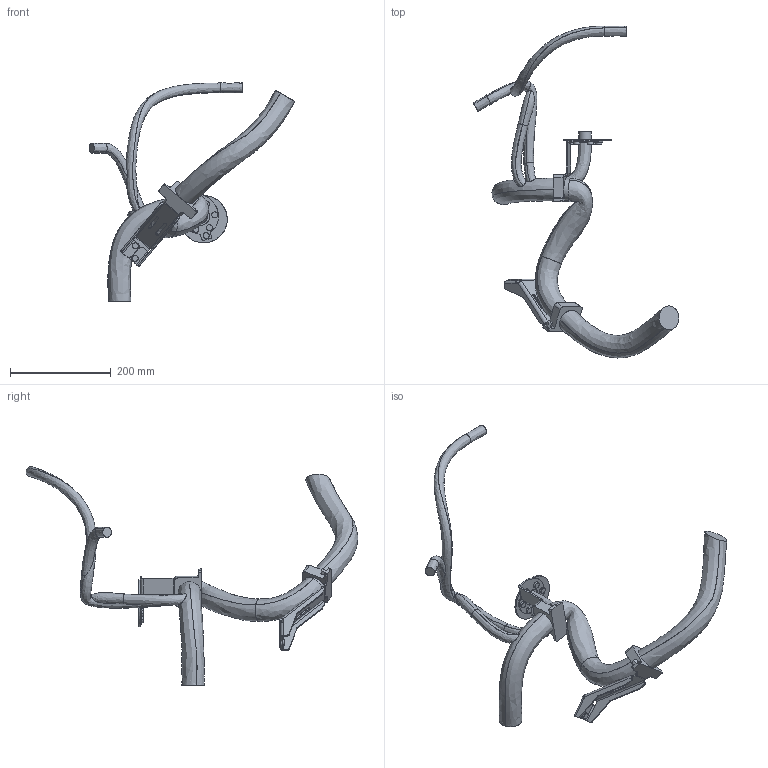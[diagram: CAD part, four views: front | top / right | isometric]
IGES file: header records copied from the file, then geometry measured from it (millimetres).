
Start section: SolidWorks IGES file using analytic representation for surfaces
Global section: file name: C:\Data\SAP_DOC\IRB6740_lightweight\6740_ASM\IRB6740_310kg-280_OC_02_SW_J\IRB6740_310kg-280_OC_02_IGES_J\IRB6740_310kg-280_OC_00_LINK01m_CABLE.igs; native system: SolidWorks 2024; preprocessor: SolidWorks 2024; author: SEJAOLS6; date: 260506.155121; units: millimetre
Bounding box: 409.22 x 660.5 x 434.37 mm (x, y, z)
Surface area: 260433.7 mm2 (no closed solid volume)
Topology: 0 solids, 0 shells, 288 faces, 4670 edges, 4670 vertices
Faces by surface type: bspline 179, revolution 109
